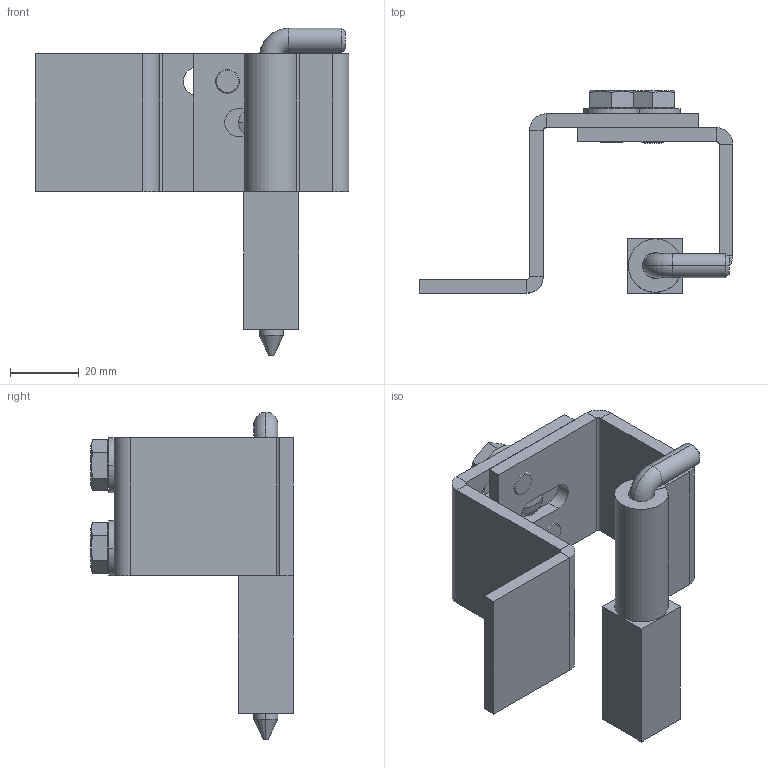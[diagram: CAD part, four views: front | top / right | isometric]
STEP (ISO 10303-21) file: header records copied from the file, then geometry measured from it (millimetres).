
FILE_DESCRIPTION (( 'STEP AP214' ), '1' );
FILE_NAME ('3.ST46-2.001.STEP', '2010-02-12T15:17:22', ( 'Rak' ), ( 'ROZTOCZE' ), 'SwSTEP 2.0', 'SolidWorks 2004231', '' );
FILE_SCHEMA (( 'AUTOMOTIVE_DESIGN' ));
Length unit declared in the file: millimetre
Products named in the file (7): 3.ST46-3.001.04_Domyœlna; Œruba M8x10_Domyœlna; 3.ST46-3.001.05_Domyœlna; Podk³adka M8_Domyœlna; 3.ST46-2.001; 3.ST46-3.001.01_Domyœlna; 3.ST46-3.001.02_Domyœlna
Assembly tree (8 placements, depth 2):
  3.ST46-2.001
    Œruba M8x10_Domyœlna  x2
    3.ST46-3.001.05_Domyœlna
    3.ST46-3.001.01_Domyœlna
    3.ST46-3.001.04_Domyœlna
    3.ST46-3.001.02_Domyœlna
    Podk³adka M8_Domyœlna  x2
Bounding box: 91 x 58.8 x 95 mm (x, y, z)
Volume: 54145.3 mm3; surface area: 31262.8 mm2
Topology: 8 solids, 8 shells, 150 faces, 330 edges, 202 vertices
Faces by surface type: plane 78, cylinder 50, cone 16, sphere 4, torus 2
Entity records: 3776 total; most frequent: DIRECTION 650, CARTESIAN_POINT 635, ORIENTED_EDGE 556, EDGE_CURVE 278, AXIS2_PLACEMENT_3D 243, VERTEX_POINT 168, LINE 164, VECTOR 164
